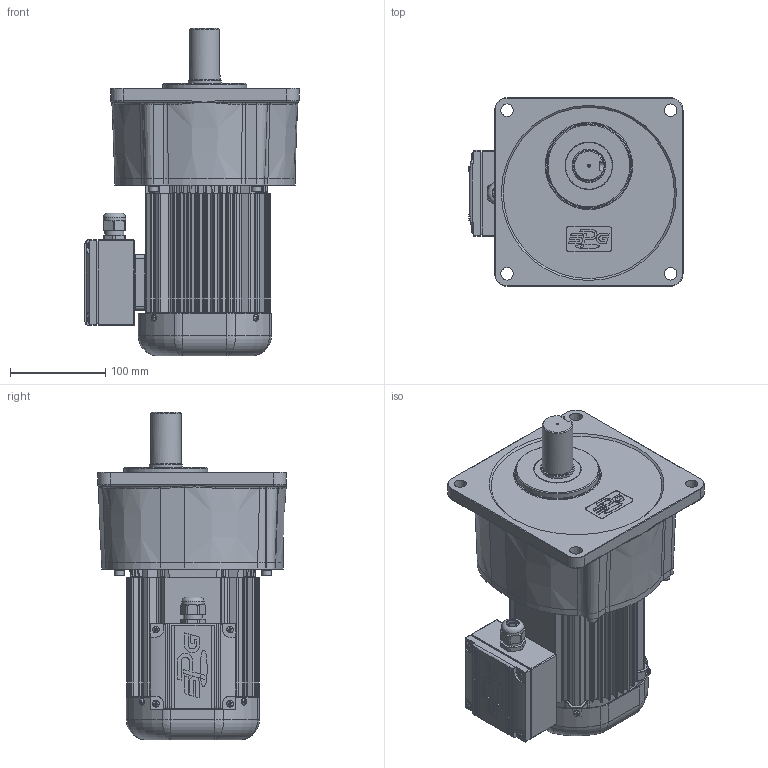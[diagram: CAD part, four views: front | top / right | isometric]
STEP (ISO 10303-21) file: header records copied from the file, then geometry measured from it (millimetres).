
FILE_DESCRIPTION(/* description */ (''),/* implementation_level */ '2;1');
FILE_NAME(/* name */ 'Z:\동력 3D 파일\PAK32_0.4kW_3D.stp',/* time_stamp */ '2021-11-09T08:51:30+09:00',/* author */ ('jaebok'),/* organization */ (''),/* preprocessor_version */ 'ST-DEVELOPER v18.1',/* originating_system */ 'Autodesk Inventor 2022',/* authorisation */ '');
FILE_SCHEMA (('AUTOMOTIVE_DESIGN { 1 0 10303 214 3 1 1 }'));
Products named in the file (1): 부품11
Bounding box: 225 x 198 x 344.5 mm (x, y, z)
Volume: 2249658.5 mm3; surface area: 592284.6 mm2
Topology: 1 solids, 34 shells, 1909 faces, 4994 edges, 3197 vertices
Faces by surface type: plane 925, cylinder 657, cone 150, torus 113, bspline 40, sphere 24
Full cylindrical faces by diameter (mm): 2 x1, 3.242 x5, 3.25 x1, 3.5 x4, 3.6 x4, 4 x21, 4.917 x4, 5 x17, 5.386 x4, 6 x13, 6.8 x4, 7 x12, 8 x1, 9.5 x4, 10 x5, 12.5 x1, 15 x1, 18 x1, 20 x2, 21 x1, 21.8 x1, 22 x1, 23.6 x1, 25 x1, 30 x1, 31 x1, 31.8 x2, 32 x2, 34.8 x1, 35 x3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
Entity records: 63637 total; most frequent: CARTESIAN_POINT 13968, DIRECTION 10308, ORIENTED_EDGE 9918, EDGE_CURVE 4959, AXIS2_PLACEMENT_3D 3988, VERTEX_POINT 3197, LINE 2332, VECTOR 2332
